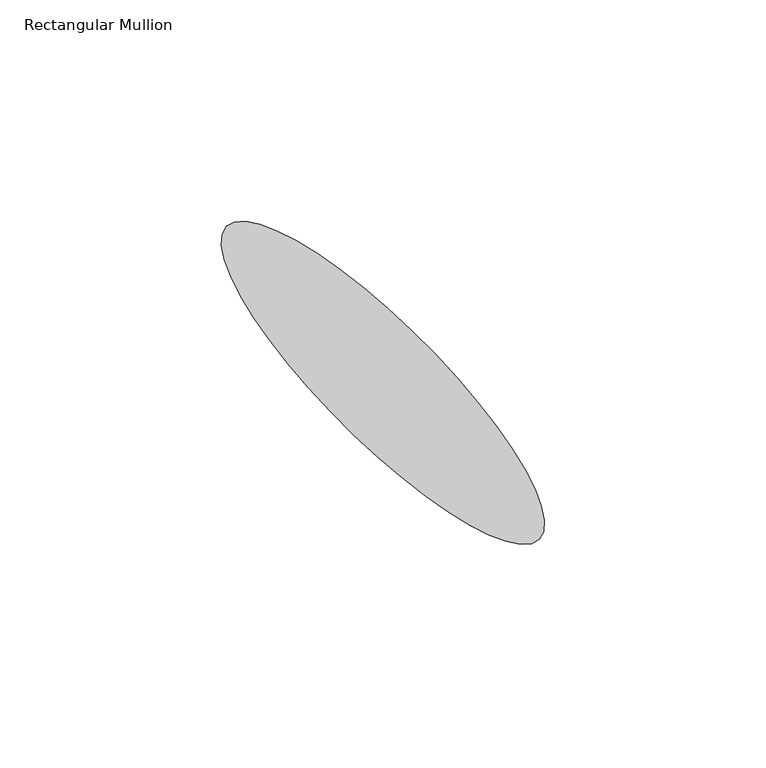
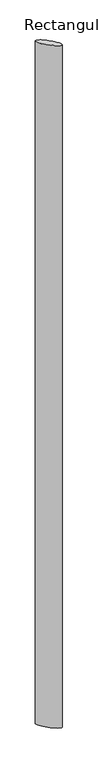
"""IFC4 building model written with IfcOpenShell, lengths in millimetres: member geometry, Rectangular Mullion : RSen_21_CWM_blade - 100 ellips - 45°_gen_duco projects."""

from ifc_helpers import new_model, si_unit, point, frame, origin, place, context, project, spatial, ellipse_curve, trimmed, source, transform, mapped, element, save
from ifc_brep_helpers import plane_surface, extruded_surface, advanced_brep


def rectangular_mullion_c274bac7(model_context):
    return source(origin(), model_context, "Body", "AdvancedBrep", [
        advanced_brep(
        [(35.3553391, 24.6446609, 0.0), (-35.3553391, 95.3553391, 0.0), (35.3553391, 24.6446609, -3000.0), (-35.3553391, 95.3553391, -3000.0)],
        [
            (0, 1, ellipse_curve(frame((0.0, 60.0, 0.0), z_axis=(0.0, 0.0, 1.0000000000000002), x_axis=(-0.7071067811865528, 0.7071067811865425, 0.0)), 50.0, 13.0)),
            (1, 0, ellipse_curve(frame((0.0, 60.0, 0.0), z_axis=(0.0, 0.0, 1.0000000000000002), x_axis=(-0.7071067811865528, 0.7071067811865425, 0.0)), 50.0, 13.0)),
            (2, 3, ellipse_curve(frame((0.0, 60.0, -3000.0), z_axis=(0.0, 0.0, -1.0000000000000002), x_axis=(-0.7071067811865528, 0.7071067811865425, 0.0)), 50.0, 13.0)),
            (3, 2, ellipse_curve(frame((0.0, 60.0, -3000.0), z_axis=(0.0, 0.0, -1.0000000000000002), x_axis=(-0.7071067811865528, 0.7071067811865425, 0.0)), 50.0, 13.0)),
            (0, 2),
            (3, 1),
        ],
        [
            plane_surface(frame((0.0, -101.6987743, 0.0), z_axis=(0.0, 0.0, 1.0), x_axis=(-1.0, 0.0, 0.0))),
            plane_surface(frame((0.0, -101.6987743, -3000.0), z_axis=(0.0, 0.0, -1.0), x_axis=(-1.0, 0.0, 0.0))),
            extruded_surface(trimmed(ellipse_curve(frame((0.0, 60.0, -3000.0), z_axis=(0.0, 0.0, 1.0000000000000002), x_axis=(-0.7071067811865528, 0.7071067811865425, 0.0)), 50.0, 13.0), [point((35.3553391, 24.6446609, -3000.0))], [point((-35.3553391, 95.3553391, -3000.0))], True, "CARTESIAN"), (0.0, 0.0, 3000.0), 3000.0),
            extruded_surface(trimmed(ellipse_curve(frame((0.0, 60.0, -3000.0), z_axis=(0.0, 0.0, 1.0000000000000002), x_axis=(-0.7071067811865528, 0.7071067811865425, 0.0)), 50.0, 13.0), [point((-35.3553391, 95.3553391, -3000.0))], [point((35.3553391, 24.6446609, -3000.0))], True, "CARTESIAN"), (0.0, 0.0, 3000.0), 3000.0),
        ],
        [
            (0, [[1, 2]]),
            (1, [[3, 4]]),
            (2, [[-1, 5, -4, 6]]),
            (3, [[-2, -6, -3, -5]]),
        ],
    ),
    ])


if __name__ == "__main__":
    model = new_model("IFC4")
    model_context = context("Model", 3, world=origin())
    ifc_project = project(units=[si_unit("LENGTHUNIT", "METRE", prefix="MILLI")], contexts=[model_context])
    site = spatial("IfcSite", under=ifc_project)
    building = spatial("IfcBuilding", under=site)
    placement = place(None, origin())
    rectangular_mullion_shape = rectangular_mullion_c274bac7(model_context)
    element("IfcMember", 1, ObjectType="Rectangular Mullion : RSen_21_CWM_blade - 100 ellips - 45°_gen_duco projects", at=placement, inside=building, context=model_context, shape_type="MappedRepresentation", body=[
        mapped(rectangular_mullion_shape, transform((0.0, 0.0, 0.0), x_axis=(1.0, 0.0, 0.0), y_axis=(0.0, 1.0, 0.0), z_axis=(0.0, 0.0, 1.0))),
    ])
    save(model, "model.ifc")
